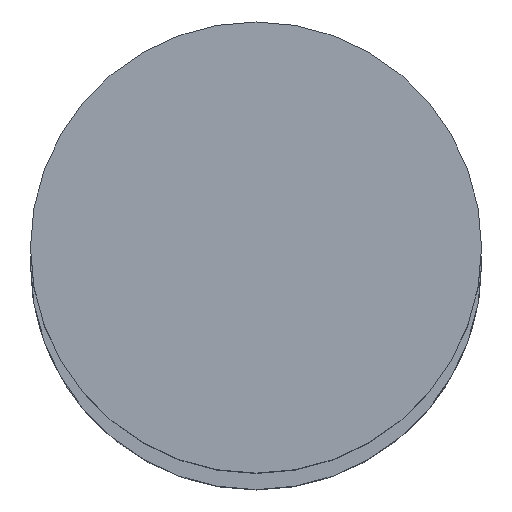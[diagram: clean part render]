
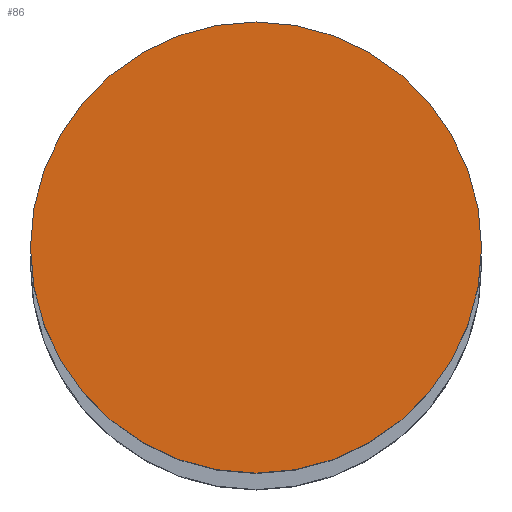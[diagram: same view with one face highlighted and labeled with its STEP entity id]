
A CAD part, top view. The second image highlights one B-rep face of the part: STEP entity #86.
In plain terms, the highlighted planar face has unit normal (0, 0, 1).
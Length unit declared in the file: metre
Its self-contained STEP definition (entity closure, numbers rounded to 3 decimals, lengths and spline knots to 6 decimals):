
#86=ADVANCED_FACE('25:217',(#170),#171,.T.);
#170=FACE_OUTER_BOUND('',#257,.T.);
#171=PLANE('',#258);
#257=EDGE_LOOP('',(#391,#392));
#258=AXIS2_PLACEMENT_3D('',#393,#394,#395);
#391=ORIENTED_EDGE('',*,*,#512,.F.);
#392=ORIENTED_EDGE('',*,*,#492,.F.);
#393=CARTESIAN_POINT('',(0.0,0.0,3.314));
#394=DIRECTION('',(0.0,0.0,1.0));
#395=DIRECTION('',(1.0,0.0,0.0));
#492=EDGE_CURVE('',#577,#579,#580,.F.);
#512=EDGE_CURVE('',#579,#577,#612,.F.);
#577=VERTEX_POINT('',#696);
#579=VERTEX_POINT('',#699);
#580=CIRCLE('',#700,0.0155);
#612=CIRCLE('',#736,0.0155);
#696=CARTESIAN_POINT('',(0.015408,0.000095,3.314));
#699=CARTESIAN_POINT('',(-0.015592,0.000095,3.314));
#700=AXIS2_PLACEMENT_3D('',#840,#841,#842);
#736=AXIS2_PLACEMENT_3D('',#877,#878,#879);
#840=CARTESIAN_POINT('',(-0.000092,0.000095,3.314));
#841=DIRECTION('',(0.0,0.0,1.0));
#842=DIRECTION('',(1.0,0.0,0.0));
#877=CARTESIAN_POINT('',(-0.000092,0.000095,3.314));
#878=DIRECTION('',(0.0,0.0,1.0));
#879=DIRECTION('',(1.0,0.0,0.0));
